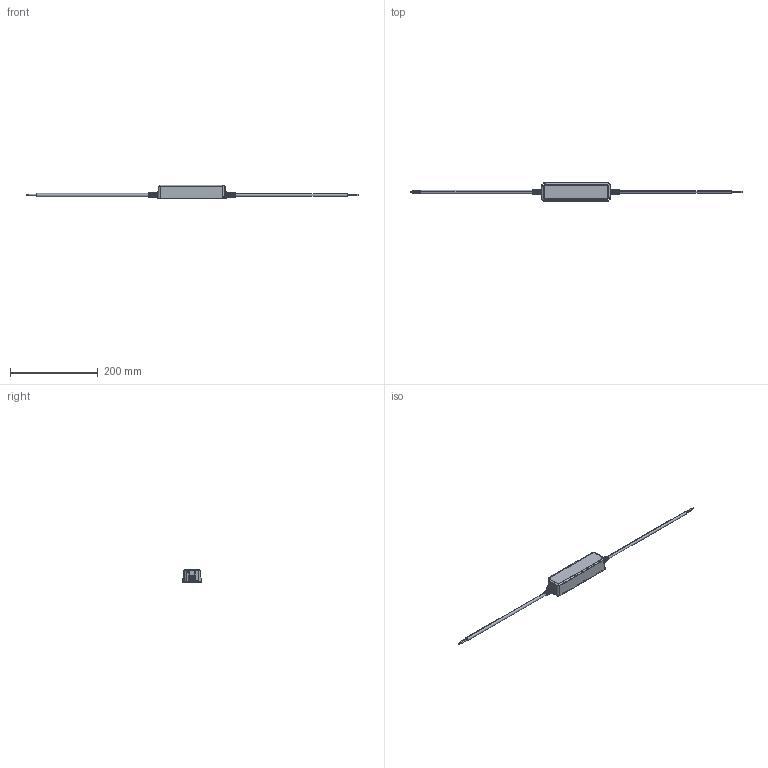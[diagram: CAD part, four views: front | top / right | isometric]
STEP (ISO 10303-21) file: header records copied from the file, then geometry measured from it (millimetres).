
FILE_DESCRIPTION(('Creo Elements/Direct Modeling STEP Export'),'2;1');
FILE_NAME('K113.stp','2024-09-17T 9:36:28',(''),(''),'Creo Elements/Direct Modeling STEP processor for AP214 (Solid Model)','Creo Elements/Direct Modeling 20.6 25-Mar-2023 (C) Parametric Technology GmbH','');
FILE_SCHEMA(('AUTOMOTIVE_DESIGN { 1 0 10303 214 1 1 1 1 }'));
Length unit declared in the file: millimetre
Products named in the file (7): SPF60-VSP_015023_STP_1.PRT; SPF60-VSP_015023_STP_2.PRT; SPF60-VSP_015023_STP_3.PRT; UNNAMED_SOLID_BODY_36830.PRT; SPF60-VSP_015023_STP_4.PRT; SPF60-VSP_015023_STP.ASM; K113
Assembly tree (6 placements, depth 3):
  K113
    SPF60-VSP_015023_STP.ASM
      SPF60-VSP_015023_STP_4.PRT
      UNNAMED_SOLID_BODY_36830.PRT
      SPF60-VSP_015023_STP_3.PRT
      SPF60-VSP_015023_STP_2.PRT
      SPF60-VSP_015023_STP_1.PRT
Bounding box: 756.2 x 41.5 x 30 mm (x, y, z)
Volume: 98054.4 mm3; surface area: 110372.1 mm2
Topology: 5 solids, 5 shells, 1066 faces, 2935 edges, 1927 vertices
Faces by surface type: plane 810, cylinder 168, bspline 56, cone 24, torus 8
Entity records: 34921 total; most frequent: CARTESIAN_POINT 8334, ORIENTED_EDGE 5854, DIRECTION 4978, EDGE_CURVE 2927, VECTOR 2260, LINE 2260, VERTEX_POINT 1927, AXIS2_PLACEMENT_3D 1359
